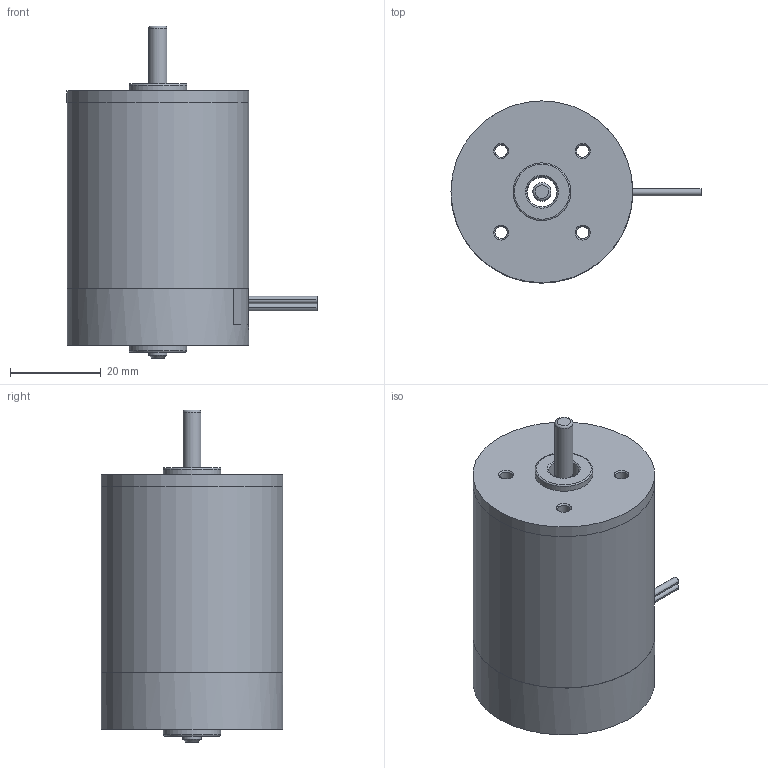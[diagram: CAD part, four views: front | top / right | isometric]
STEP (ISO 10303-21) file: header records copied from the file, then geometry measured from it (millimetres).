
FILE_DESCRIPTION(/* description */ (''),/* implementation_level */ '2;1');
FILE_NAME(/* name */ 'Z:\새 폴더\Compact Type RM4_3D\RM43ㅁBL.stp',/* time_stamp */ '2022-04-05T16:09:51+09:00',/* author */ ('umbro'),/* organization */ (''),/* preprocessor_version */ 'ST-DEVELOPER v17',/* originating_system */ 'Autodesk Inventor 2019',/* authorisation */ '');
FILE_SCHEMA (('AUTOMOTIVE_DESIGN { 1 0 10303 214 3 1 1 }'));
Length unit declared in the file: millimetre
Products named in the file (7): RM43ㅁBL; RM4TYPE_FRONT_HOUSING_; RM4TYPE_PIPE_HOUSING_pi40XL40.8; RM43TYPE_SHAFT; REAR_HOUSING__ASS'Y_LEAD; RM4TYPE_BRUSH_BRAKET_LEAD; RM4TYPE_REAR_HOUSING
Assembly tree (5 placements, depth 2):
  RM43ㅁBL
    RM4TYPE_FRONT_HOUSING_
    RM4TYPE_PIPE_HOUSING_pi40XL40.8
    RM43TYPE_SHAFT
  REAR_HOUSING__ASS'Y_LEAD
    RM4TYPE_BRUSH_BRAKET_LEAD
    RM4TYPE_REAR_HOUSING
Bounding box: 55 x 40 x 73.04 mm (x, y, z)
Volume: 20702.3 mm3; surface area: 19912.2 mm2
Topology: 7 solids, 7 shells, 70 faces, 151 edges, 98 vertices
Faces by surface type: plane 29, cylinder 26, cone 12, torus 3
Full cylindrical faces by diameter (mm): 2.7 x4, 2.8 x4, 3.7 x2, 3.969 x1, 4 x1, 6.5 x1, 6.65 x1, 12.7 x2, 36.5 x1, 40 x3
Entity records: 2274 total; most frequent: DIRECTION 400, CARTESIAN_POINT 332, ORIENTED_EDGE 302, AXIS2_PLACEMENT_3D 166, EDGE_CURVE 151, EDGE_LOOP 99, VERTEX_POINT 98, CIRCLE 83
